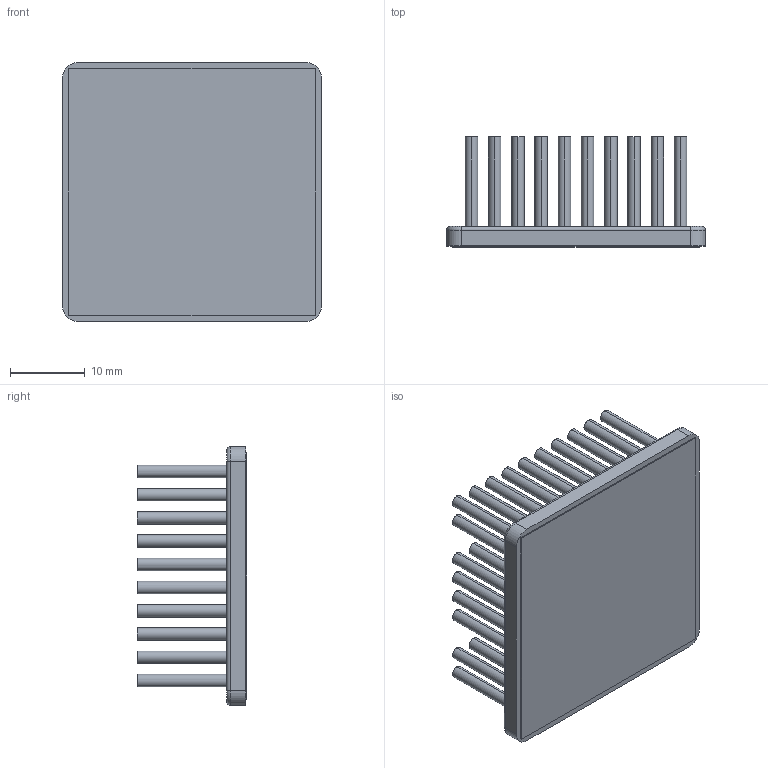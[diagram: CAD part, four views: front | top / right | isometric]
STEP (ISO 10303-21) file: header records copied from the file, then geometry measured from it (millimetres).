
FILE_DESCRIPTION (( 'STEP AP214' ), '1' );
FILE_NAME ('INM35002-15P-2.6.STEP', '2023-02-21T00:03:20', ( '' ), ( '' ), 'SwSTEP 2.0', 'SolidWorks 2020', '' );
FILE_SCHEMA (( 'AUTOMOTIVE_DESIGN' ));
Length unit declared in the file: inch
Products named in the file (1): INM35002-15P-2.6
Bounding box: 34.7 x 14.73 x 34.7 mm (x, y, z)
Volume: 5670.8 mm3; surface area: 10710.5 mm2
Topology: 2 solids, 2 shells, 300 faces, 604 edges, 400 vertices
Faces by surface type: cylinder 192, plane 104, torus 4
Entity records: 11963 total; most frequent: DIRECTION 1594, CARTESIAN_POINT 1305, ORIENTED_EDGE 1208, AXIS2_PLACEMENT_3D 689, EDGE_CURVE 604, VERTEX_POINT 400, EDGE_LOOP 392, CIRCLE 388
